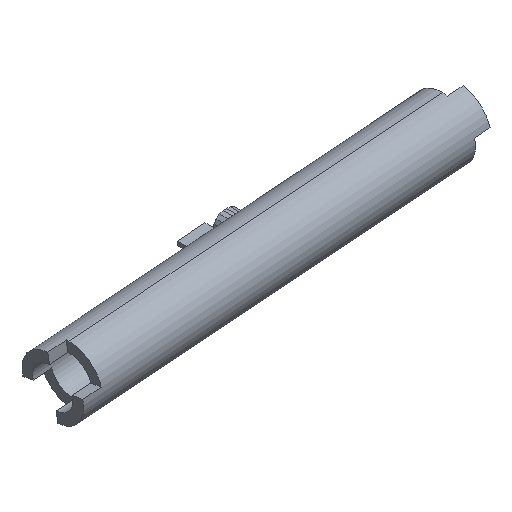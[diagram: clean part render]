
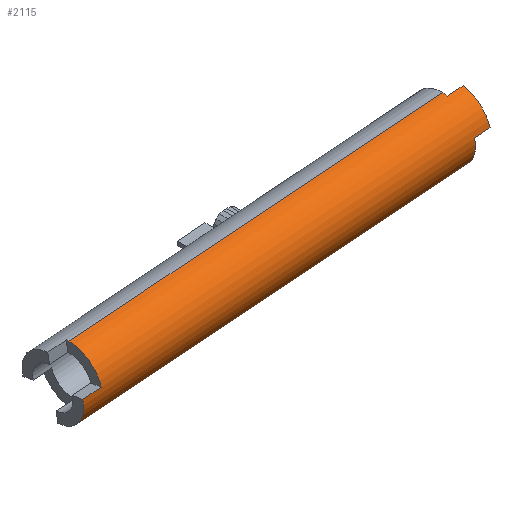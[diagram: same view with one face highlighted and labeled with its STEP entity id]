
A CAD part, isometric view. The second image highlights one B-rep face of the part: STEP entity #2115.
In plain terms, the highlighted cylindrical face has radius 5 mm (diameter 10 mm), a partial arc.
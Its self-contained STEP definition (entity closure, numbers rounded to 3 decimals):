
#15=CARTESIAN_POINT('',(491.495,0.,-149.61));
#16=DIRECTION('',(-0.997,0.,-0.077));
#17=DIRECTION('',(-0.076,-0.174,0.982));
#18=AXIS2_PLACEMENT_3D('',#15,#16,#17);
#43=CARTESIAN_POINT('',(491.495,0.,-149.61));
#44=DIRECTION('',(-0.997,0.,-0.077));
#45=DIRECTION('',(0.077,0.,-0.997));
#46=AXIS2_PLACEMENT_3D('',#43,#44,#45);
#73=DIRECTION('',(-0.997,0.,-0.077));
#74=VECTOR('',#73,60.735);
#75=CARTESIAN_POINT('',(491.109,0.,-144.625));
#76=LINE('',#75,#74);
#542=DIRECTION('',(0.997,0.,0.077));
#543=VECTOR('',#542,2.5);
#544=CARTESIAN_POINT('',(491.114,-0.868,
-144.701));
#545=LINE('',#544,#543);
#546=DIRECTION('',(-0.997,0.,-0.077));
#547=VECTOR('',#546,60.735);
#548=CARTESIAN_POINT('',(491.881,0.,-154.595));
#549=LINE('',#548,#547);
#550=CARTESIAN_POINT('',(430.941,0.,-154.302));
#551=DIRECTION('',(-0.997,0.,-0.077));
#552=DIRECTION('',(0.077,0.,-0.997));
#553=AXIS2_PLACEMENT_3D('',#550,#551,#552);
#555=DIRECTION('',(0.997,0.,0.077));
#556=VECTOR('',#555,3.);
#557=CARTESIAN_POINT('',(428.335,-0.436,
-159.5));
#558=LINE('',#557,#556);
#559=CARTESIAN_POINT('',(430.941,0.,-154.302));
#560=DIRECTION('',(-0.997,0.,-0.077));
#561=DIRECTION('',(-0.013,-0.985,0.173));
#562=AXIS2_PLACEMENT_3D('',#559,#560,#561);
#576=DIRECTION('',(0.997,0.,0.077));
#577=VECTOR('',#576,2.5);
#578=CARTESIAN_POINT('',(491.428,-4.924,-148.744));
#579=LINE('',#578,#577);
#589=CARTESIAN_POINT('',(493.987,0.,-149.417));
#590=DIRECTION('',(0.997,0.,0.077));
#591=DIRECTION('',(-0.076,-0.174,0.982));
#592=AXIS2_PLACEMENT_3D('',#589,#590,#591);
#668=DIRECTION('',(0.997,0.,0.077));
#669=VECTOR('',#668,3.);
#670=CARTESIAN_POINT('',(427.883,-4.924,-153.668));
#671=LINE('',#670,#669);
#681=CARTESIAN_POINT('',(427.95,0.,-154.534));
#682=DIRECTION('',(-0.997,0.,-0.077));
#683=DIRECTION('',(0.077,-0.087,-0.993));
#684=AXIS2_PLACEMENT_3D('',#681,#682,#683);
#1406=CARTESIAN_POINT('',(428.335,-0.436,
-159.5));
#1407=CARTESIAN_POINT('',(427.883,-4.924,
-153.668));
#1408=VERTEX_POINT('',#1406);
#1409=VERTEX_POINT('',#1407);
#1410=CARTESIAN_POINT('',(431.326,-0.436,
-159.268));
#1411=VERTEX_POINT('',#1410);
#1412=CARTESIAN_POINT('',(430.874,-4.924,
-153.436));
#1413=VERTEX_POINT('',#1412);
#1422=CARTESIAN_POINT('',(493.607,-0.868,
-144.508));
#1423=CARTESIAN_POINT('',(493.92,-4.924,
-148.551));
#1424=VERTEX_POINT('',#1422);
#1425=VERTEX_POINT('',#1423);
#1426=CARTESIAN_POINT('',(491.114,-0.868,
-144.701));
#1427=VERTEX_POINT('',#1426);
#1428=CARTESIAN_POINT('',(491.428,-4.924,
-148.744));
#1429=VERTEX_POINT('',#1428);
#1430=CARTESIAN_POINT('',(430.555,0.,-149.317));
#1431=VERTEX_POINT('',#1430);
#1432=CARTESIAN_POINT('',(431.327,0.,-159.287));
#1433=VERTEX_POINT('',#1432);
#1434=CARTESIAN_POINT('',(491.109,0.,-144.625));
#1435=VERTEX_POINT('',#1434);
#1436=CARTESIAN_POINT('',(491.881,0.,-154.595));
#1437=VERTEX_POINT('',#1436);
#2088=CARTESIAN_POINT('',(491.495,0.,-149.61));
#2089=DIRECTION('',(-0.997,0.,-0.077));
#2090=DIRECTION('',(-0.077,0.,0.997));
#2091=AXIS2_PLACEMENT_3D('',#2088,#2089,#2090);
#2092=CYLINDRICAL_SURFACE('',#2091,5.);
#2093=ORIENTED_EDGE('',*,*,#1773,.F.);
#2095=ORIENTED_EDGE('',*,*,#2094,.T.);
#2097=ORIENTED_EDGE('',*,*,#2096,.T.);
#2099=ORIENTED_EDGE('',*,*,#2098,.F.);
#2100=ORIENTED_EDGE('',*,*,#1793,.F.);
#2101=ORIENTED_EDGE('',*,*,#1870,.T.);
#2103=ORIENTED_EDGE('',*,*,#2102,.T.);
#2105=ORIENTED_EDGE('',*,*,#2104,.F.);
#2107=ORIENTED_EDGE('',*,*,#2106,.T.);
#2109=ORIENTED_EDGE('',*,*,#2108,.T.);
#2111=ORIENTED_EDGE('',*,*,#2110,.T.);
#2112=ORIENTED_EDGE('',*,*,#1858,.F.);
#2113=EDGE_LOOP('',(#2093,#2095,#2097,#2099,#2100,#2101,#2103,#2105,#2107,#2109,
#2111,#2112));
#2114=FACE_OUTER_BOUND('',#2113,.F.);
#2115=ADVANCED_FACE('',(#2114),#2092,.T.);
#19=CIRCLE('',#18,5.);
#47=CIRCLE('',#46,5.);
#554=CIRCLE('',#553,5.);
#563=CIRCLE('',#562,5.);
#593=CIRCLE('',#592,5.);
#685=CIRCLE('',#684,5.);
#1773=EDGE_CURVE('',#1427,#1435,#19,.T.);
#1793=EDGE_CURVE('',#1437,#1429,#47,.T.);
#1858=EDGE_CURVE('',#1435,#1431,#76,.T.);
#1870=EDGE_CURVE('',#1437,#1433,#549,.T.);
#2094=EDGE_CURVE('',#1427,#1424,#545,.T.);
#2096=EDGE_CURVE('',#1424,#1425,#593,.T.);
#2098=EDGE_CURVE('',#1429,#1425,#579,.T.);
#2102=EDGE_CURVE('',#1433,#1411,#554,.T.);
#2104=EDGE_CURVE('',#1408,#1411,#558,.T.);
#2106=EDGE_CURVE('',#1408,#1409,#685,.T.);
#2108=EDGE_CURVE('',#1409,#1413,#671,.T.);
#2110=EDGE_CURVE('',#1413,#1431,#563,.T.);
